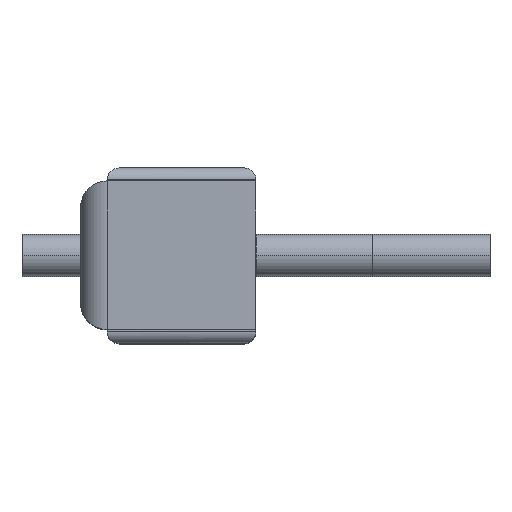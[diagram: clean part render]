
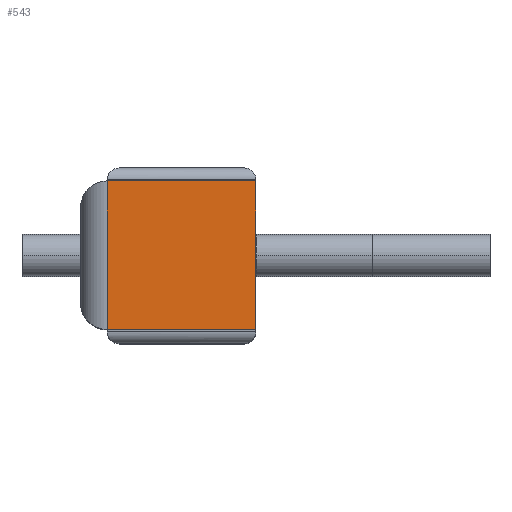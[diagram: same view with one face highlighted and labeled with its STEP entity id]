
A CAD part, top view. The second image highlights one B-rep face of the part: STEP entity #543.
In plain terms, the highlighted planar face has unit normal (0, 0, 1).
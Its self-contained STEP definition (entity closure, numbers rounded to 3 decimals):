
#15 = LINE ( 'NONE', #16, #3124 ) ;
#16 = CARTESIAN_POINT ( 'NONE',  ( -6.35, -6.35, 80. ) ) ;
#17 = DIRECTION ( 'NONE',  ( 1., 0., 0. ) ) ;
#84 = LINE ( 'NONE', #85, #3298 ) ;
#85 = CARTESIAN_POINT ( 'NONE',  ( 6.35, 6.35, 80. ) ) ;
#86 = DIRECTION ( 'NONE',  ( 0., 1., 0. ) ) ;
#348 = ORIENTED_EDGE ( 'NONE', *, *, #401, .T. ) ;
#367 = ORIENTED_EDGE ( 'NONE', *, *, #708, .T. ) ;
#368 = ORIENTED_EDGE ( 'NONE', *, *, #425, .T. ) ;
#369 = ORIENTED_EDGE ( 'NONE', *, *, #685, .T. ) ;
#401 = EDGE_CURVE ( 'NONE', #2307, #2268, #15, .T. ) ;
#425 = EDGE_CURVE ( 'NONE', #2268, #2335, #84, .T. ) ;
#543 = ADVANCED_FACE ( 'NONE', ( #3318 ), #1242, .T. ) ;
#685 = EDGE_CURVE ( 'NONE', #2335, #2341, #1717, .T. ) ;
#708 = EDGE_CURVE ( 'NONE', #2341, #2307, #1831, .T. ) ;
#1242 = PLANE ( 'NONE',  #3173 ) ;
#1243 = CARTESIAN_POINT ( 'NONE',  ( 0., 0., 80. ) ) ;
#1244 = DIRECTION ( 'NONE',  ( 0., 0., 1. ) ) ;
#1245 = DIRECTION ( 'NONE',  ( 1., 0., 0. ) ) ;
#1717 = LINE ( 'NONE', #1718, #3149 ) ;
#1718 = CARTESIAN_POINT ( 'NONE',  ( -6.35, 6.35, 80. ) ) ;
#1719 = DIRECTION ( 'NONE',  ( -1., 0., 0. ) ) ;
#1831 = LINE ( 'NONE', #1832, #2602 ) ;
#1832 = CARTESIAN_POINT ( 'NONE',  ( -6.35, 6.35, 80. ) ) ;
#1833 = DIRECTION ( 'NONE',  ( 0., -1., 0. ) ) ;
#2043 = CARTESIAN_POINT ( 'NONE',  ( 6.35, -6.35, 80. ) ) ;
#2081 = CARTESIAN_POINT ( 'NONE',  ( -6.35, -6.35, 80. ) ) ;
#2108 = CARTESIAN_POINT ( 'NONE',  ( 6.35, 6.35, 80. ) ) ;
#2114 = CARTESIAN_POINT ( 'NONE',  ( -6.35, 6.35, 80. ) ) ;
#2268 = VERTEX_POINT ( 'NONE', #2043 ) ;
#2307 = VERTEX_POINT ( 'NONE', #2081 ) ;
#2335 = VERTEX_POINT ( 'NONE', #2108 ) ;
#2341 = VERTEX_POINT ( 'NONE', #2114 ) ;
#2602 = VECTOR ( 'NONE', #1833, 1000. ) ;
#3073 = EDGE_LOOP ( 'NONE', ( #367, #348, #368, #369 ) ) ;
#3124 = VECTOR ( 'NONE', #17, 1000. ) ;
#3149 = VECTOR ( 'NONE', #1719, 1000. ) ;
#3173 = AXIS2_PLACEMENT_3D ( 'NONE', #1243, #1244, #1245 ) ;
#3298 = VECTOR ( 'NONE', #86, 1000. ) ;
#3318 = FACE_OUTER_BOUND ( 'NONE', #3073, .T. ) ;
